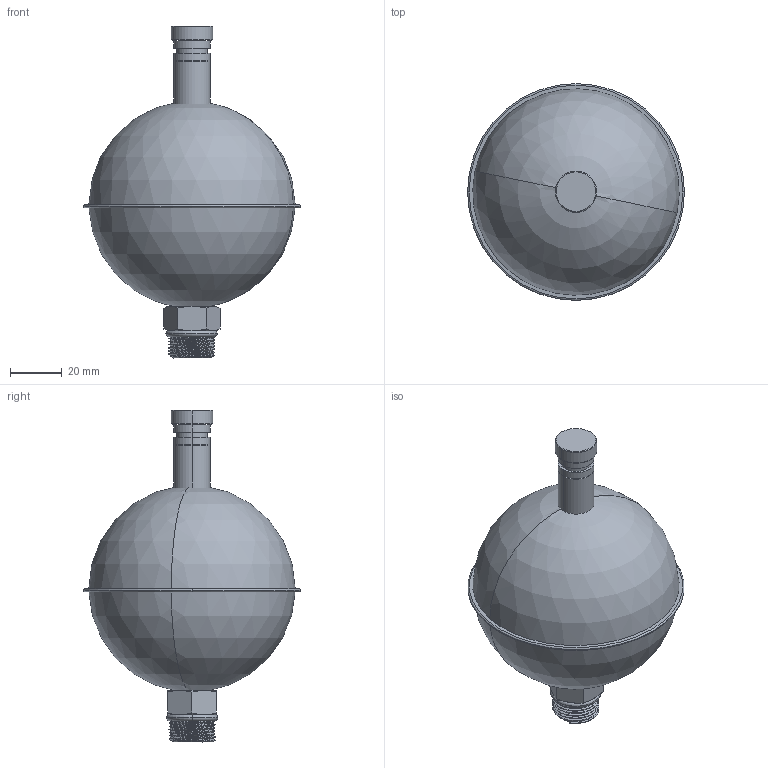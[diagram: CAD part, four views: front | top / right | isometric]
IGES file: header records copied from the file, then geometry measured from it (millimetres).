
Start section: Diese Datei wurde von MicroStation IGES (Import) erzeugt.
Global section: file name: Purg-Inox 2000 V01 neu.igs; native system: MicroStation; preprocessor: MicroStation; date: 20260302.135403; units: millimetre
Bounding box: 84 x 84 x 128.65 mm (x, y, z)
Surface area: 86502.6 mm2
Topology: 11 solids, 11 shells, 107 faces, 532 edges, 466 vertices
Faces by surface type: cylinder 36, plane 23, revolution 14, torus 8, extrusion 8, sphere 8, cone 6, bspline 4
